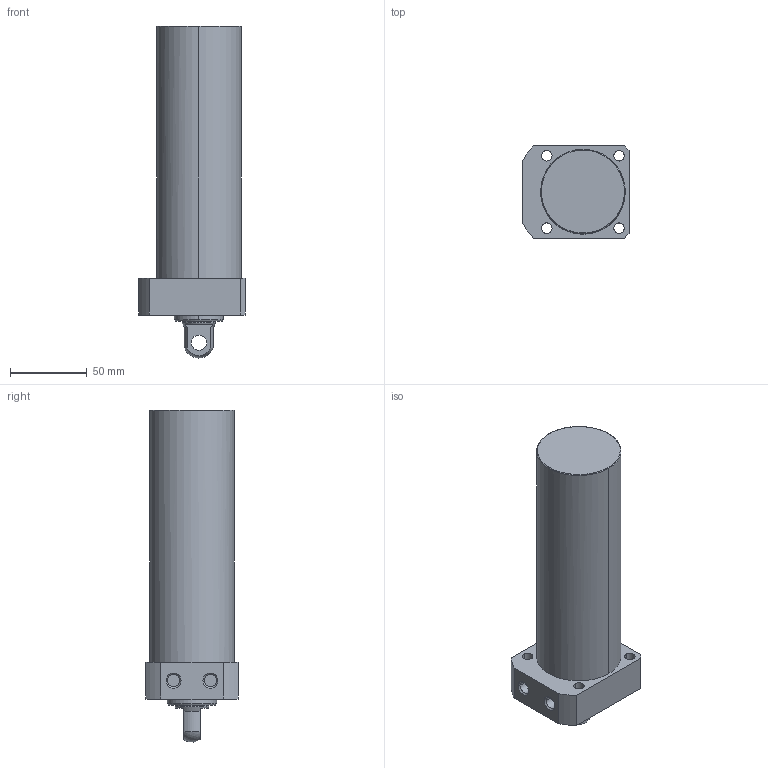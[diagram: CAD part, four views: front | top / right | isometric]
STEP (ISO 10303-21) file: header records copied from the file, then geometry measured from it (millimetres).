
FILE_DESCRIPTION((' '),'2;1');
FILE_NAME( 'TLLR-055CP-135.STEP.stp', '2025-10-24T16:34:52', (' '), ('--- Datakit www.datakit.com---'), ' Datakit CrossCadWare V2024.1 Dec 21 2023', 'Mastercam 2025', ' ');
FILE_SCHEMA(('AUTOMOTIVE_DESIGN { 1 0 10303 214 1 1 1 1 }'));
Length unit declared in the file: millimetre
Products named in the file (1): TLLR-055CP-135
Bounding box: 69 x 60 x 215.93 mm (x, y, z)
Volume: 489159.9 mm3; surface area: 46555.2 mm2
Topology: 1 solids, 1 shells, 57 faces, 164 edges, 116 vertices
Faces by surface type: cylinder 28, plane 18, cone 8, torus 2, sphere 1
Entity records: 2006 total; most frequent: DIRECTION 378, CARTESIAN_POINT 350, ORIENTED_EDGE 328, EDGE_CURVE 164, AXIS2_PLACEMENT_3D 160, VERTEX_POINT 116, CIRCLE 102, EDGE_LOOP 74
